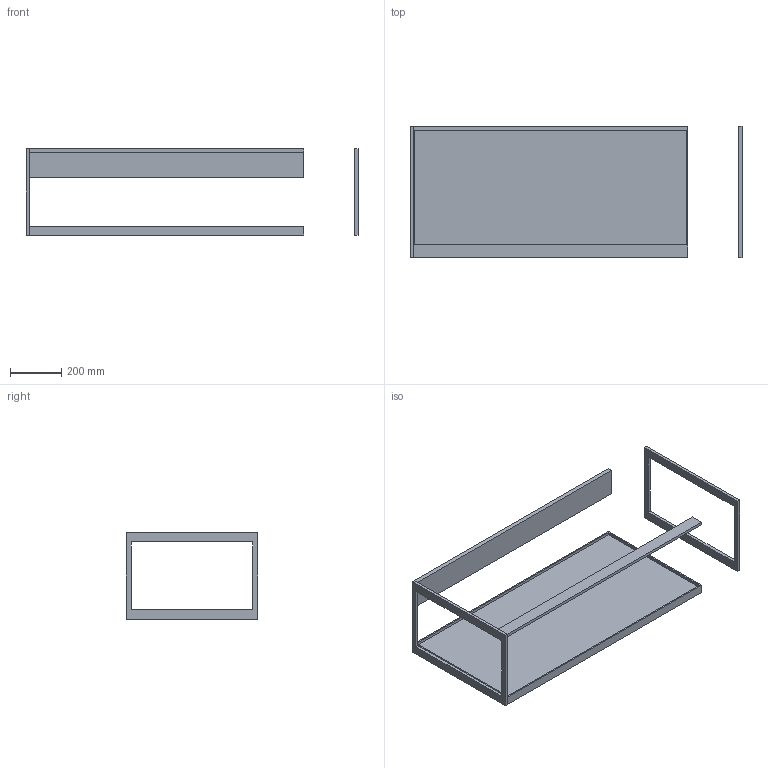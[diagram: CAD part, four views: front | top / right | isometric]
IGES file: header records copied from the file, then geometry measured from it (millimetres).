
Start section: Data from Parasolid IGES Translator 19.0.9, Copyright(c) 2006 Siemens PL M Software. All Rights Reserved.
Global section: file name: noorth-FJ-H 33,5 D 51,2 W 108_6693.igs; native system: By Siemens PLM Incorporated; preprocessor: XPlus GENERIC/IGES 19.0.9; author: Noname; organization: Noname; date: 20200507.121010; units: metre
Bounding box: 1292 x 512 x 335 mm (x, y, z)
Volume: 17169881.7 mm3; surface area: 1914362.5 mm2
Topology: 5 solids, 5 shells, 43 faces, 96 edges, 64 vertices
Faces by surface type: plane 43
